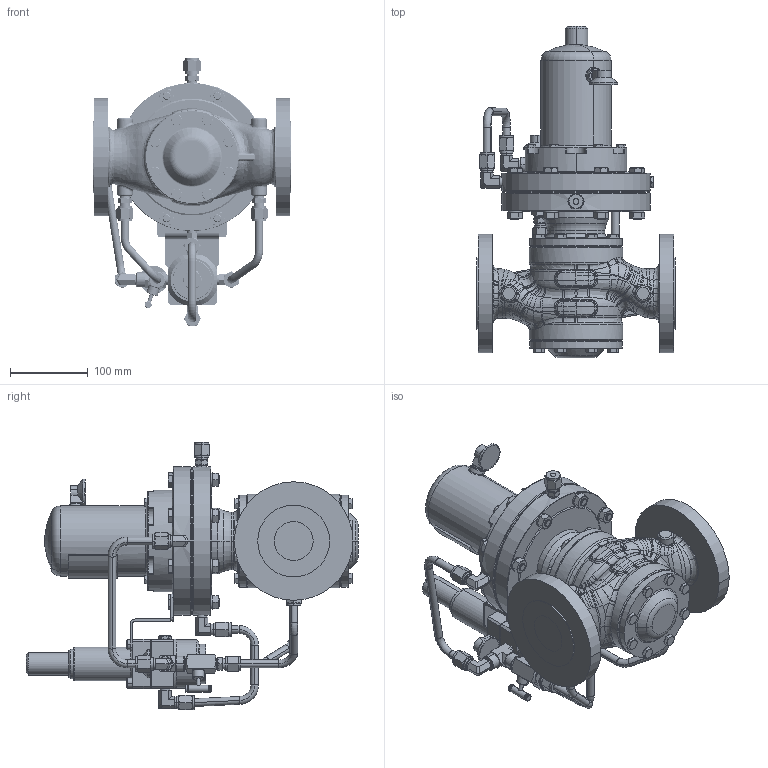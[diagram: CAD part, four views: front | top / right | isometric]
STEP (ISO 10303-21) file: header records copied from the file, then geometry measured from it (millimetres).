
FILE_DESCRIPTION((''),'2;1');
FILE_NAME('216018R0_ASM_PI2-300-_SW0001','2020-04-16T',('lesquevinim'),(''),'PRO/ENGINEER BY PARAMETRIC TECHNOLOGY CORPORATION, 2010160','PRO/ENGINEER BY PARAMETRIC TECHNOLOGY CORPORATION, 2010160','');
FILE_SCHEMA(('CONFIG_CONTROL_DESIGN'));
Products named in the file (1): 216018R0_ASM_PI2-300-_SW0001
Bounding box: 254 x 425.8 x 343.71 mm (x, y, z)
Volume: 3530292.3 mm3; surface area: 829068.4 mm2
Topology: 1 solids, 5 shells, 3771 faces, 8828 edges, 5270 vertices
Faces by surface type: bspline 1106, plane 855, cylinder 808, cone 778, torus 220, sphere 4
Entity records: 156650 total; most frequent: CARTESIAN_POINT 80896, ORIENTED_EDGE 17528, DIRECTION 12808, EDGE_CURVE 8764, AXIS2_PLACEMENT_3D 5359, VERTEX_POINT 5270, EDGE_LOOP 4132, B_SPLINE_CURVE_WITH_KNOTS 3980
